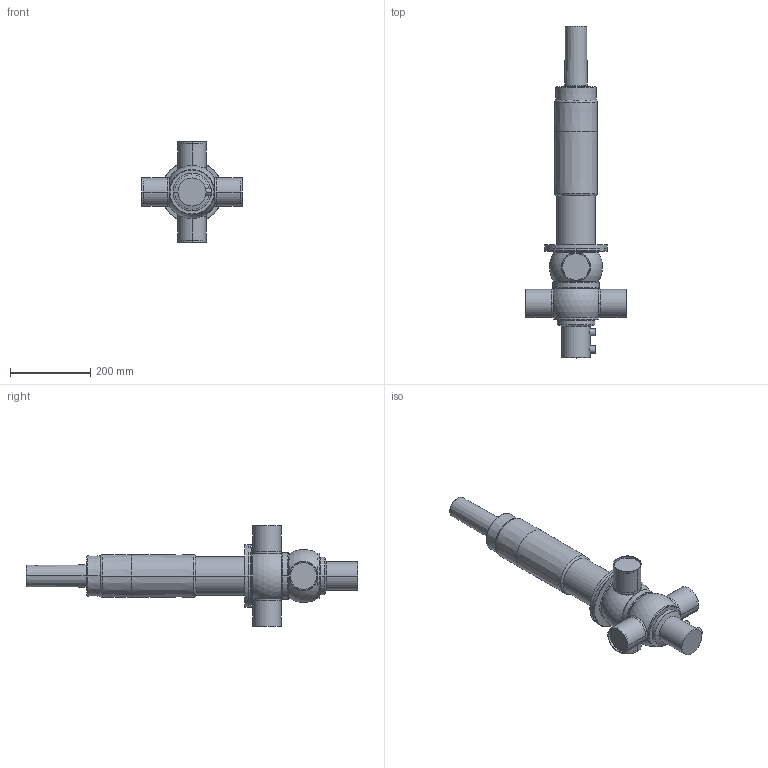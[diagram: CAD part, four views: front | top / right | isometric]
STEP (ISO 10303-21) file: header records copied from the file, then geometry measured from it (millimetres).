
FILE_DESCRIPTION(('Creo Elements/Direct Modeling STEP Export'),'2;1');
FILE_NAME('DA44-65_prox..stp','2019-09-04T15:28:42',(''),(''),'PTC Creo Elements/Direct Modeling STEP processor for AP214 (Solid Model)','PTC Creo Elements/Direct Modeling 19.0B 21-Mar-2015 (C) Parametric Technology GmbH','');
FILE_SCHEMA(('AUTOMOTIVE_DESIGN { 1 0 10303 214 1 1 1 1 }'));
Length unit declared in the file: millimetre
Products named in the file (5): D4_Prox._holder.; actuator_DA4-100_yoke; drain_pipe-62; housing_DA44-65; DA44-65_prox.
Assembly tree (4 placements, depth 2):
  DA44-65_prox.
    housing_DA44-65
    drain_pipe-62
    actuator_DA4-100_yoke
    D4_Prox._holder.
Bounding box: 250 x 827.35 x 250 mm (x, y, z)
Volume: 7397218.6 mm3; surface area: 431050.2 mm2
Topology: 4 solids, 4 shells, 136 faces, 293 edges, 179 vertices
Faces by surface type: cylinder 48, torus 40, plane 28, cone 16, sphere 4
Entity records: 4757 total; most frequent: CARTESIAN_POINT 1898, ORIENTED_EDGE 586, DIRECTION 576, EDGE_CURVE 293, AXIS2_PLACEMENT_3D 256, VERTEX_POINT 179, EDGE_LOOP 150, FACE_OUTER_BOUND 136
